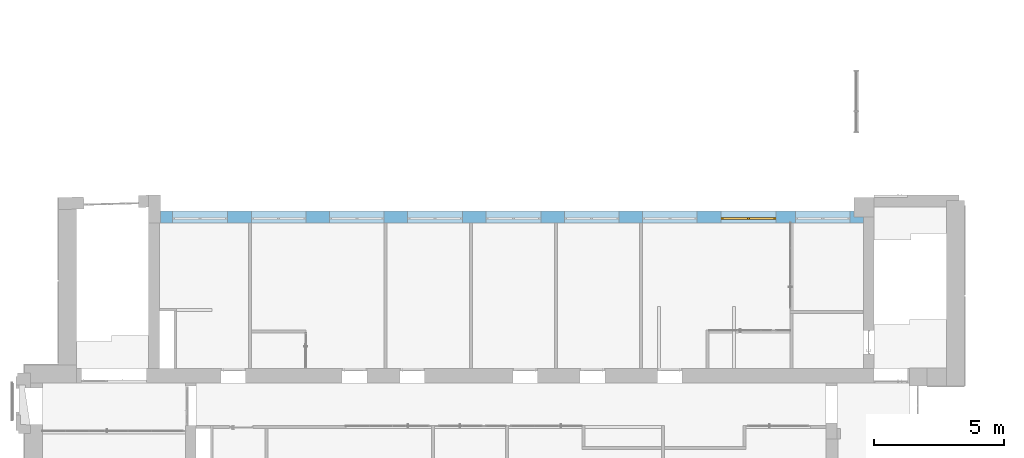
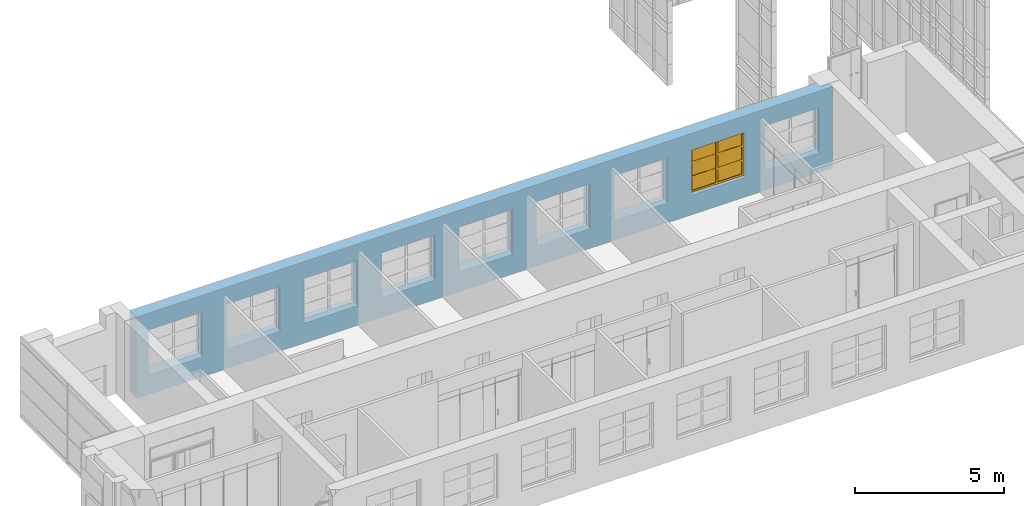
# One storey, part 66 of 73: 1 window, 9 openings, plus 1 element that does not belong to this part.
"""IFC2X3 building model written with IfcOpenShell, lengths in millimetres."""

import ifcopenshell
import ifcopenshell.guid

model = None  # the IFC model being written
_history = None  # IfcOwnerHistory: only IFC2X3 demands one
_inside = {}  # id of a spatial element -> (the spatial element, [elements in it])
_under = {}  # id of a project, library or spatial element -> (it, [spatial elements below it])
_declared = {}  # id of a project -> (the project, [libraries it declares])
_typed = {}  # id of a type object -> (the type object, [elements of that type])
_made_of = {}  # id of a material, layer set ... -> (it, [elements and type objects made of it])


def new_model(schema):
    """Start an empty IFC model of exactly this schema.

    Asked for "IFC4X3", IfcOpenShell would pick the latest addendum, in which some entities
    have other attributes; the version numbers below select the first issue.
    IFC2X3 requires an IfcOwnerHistory on every rooted entity: one is made here for all.
    """
    global model, _history
    if schema == "IFC4X3":
        model = ifcopenshell.file(schema_version=(4, 3, 0, 0))
    else:
        model = ifcopenshell.file(schema=schema)
    _inside.clear()
    _under.clear()
    _declared.clear()
    _typed.clear()
    _made_of.clear()
    _history = None
    if model.schema == "IFC2X3":
        org = make("IfcOrganization", Name="unknown")
        user = make(
            "IfcPersonAndOrganization",
            ThePerson=make("IfcPerson", FamilyName="unknown"),
            TheOrganization=org,
        )
        app = make(
            "IfcApplication",
            ApplicationDeveloper=org,
            Version="unknown",
            ApplicationFullName="unknown",
            ApplicationIdentifier="unknown",
        )
        _history = make(
            "IfcOwnerHistory",
            OwningUser=user,
            OwningApplication=app,
            ChangeAction="ADDED",
            CreationDate=0,
        )
    return model


def make(cls, **values):
    """One entity of the class cls with the attributes given. An attribute that is None is left unset."""
    return model.create_entity(
        cls, **{name: value for name, value in values.items() if value is not None}
    )


def entity(cls, *values):
    """Any entity or typed value of the class cls, its attributes in the order of the schema. None: left unset."""
    e = model.create_entity(cls)
    for i, value in enumerate(values):
        if value is not None:
            e[i] = value
    return e


def rooted(cls, **values):
    """An entity with a GlobalId (a new one), such as an element, a storey or a relation."""
    return make(cls, GlobalId=ifcopenshell.guid.new(), OwnerHistory=_history, **values)


def si_unit(unit_type, name, prefix=None):
    """IfcSIUnit, for example si_unit("LENGTHUNIT", "METRE", prefix="MILLI")."""
    return make("IfcSIUnit", UnitType=unit_type, Prefix=prefix, Name=name)


def converted_unit(unit_type, name, factor, base, dimensions=None, offset=None):
    """IfcConversionBasedUnit, such as the inch: factor (a typed value) times the base unit."""
    return make(
        "IfcConversionBasedUnit"
        if offset is None
        else "IfcConversionBasedUnitWithOffset",
        ConversionOffset=offset,
        Dimensions=None
        if dimensions is None
        else entity("IfcDimensionalExponents", *dimensions),
        UnitType=unit_type,
        Name=name,
        ConversionFactor=make(
            "IfcMeasureWithUnit", ValueComponent=factor, UnitComponent=base
        ),
    )


def derived_unit(unit_type, elements):
    """IfcDerivedUnit: a product of units, each with its exponent."""
    return make(
        "IfcDerivedUnit",
        Elements=[
            make("IfcDerivedUnitElement", Unit=unit, Exponent=power)
            for unit, power in elements
        ],
        UnitType=unit_type,
    )


def assignment(units):
    """IfcUnitAssignment: the units of a project."""
    return None if units is None else make("IfcUnitAssignment", Units=units)


def point(xyz):
    """IfcCartesianPoint."""
    return None if xyz is None else make("IfcCartesianPoint", Coordinates=xyz)


def direction(xyz):
    """IfcDirection."""
    return None if xyz is None else make("IfcDirection", DirectionRatios=xyz)


def frame(location, z_axis=None, x_axis=None):
    """IfcAxis2Placement3D, a coordinate frame: its origin and axes. An axis left out is left unset."""
    return make(
        "IfcAxis2Placement3D",
        Location=point(location),
        Axis=direction(z_axis),
        RefDirection=direction(x_axis),
    )


def frame_2d(location, x_axis=None):
    """IfcAxis2Placement2D, a coordinate frame in the plane: its origin and x axis."""
    return make(
        "IfcAxis2Placement2D", Location=point(location), RefDirection=direction(x_axis)
    )


def origin():
    """The frame at (0, 0, 0) with its axes left unset."""
    return frame((0.0, 0.0, 0.0))


def origin_2d_with_axis():
    """The frame at (0, 0) in the plane with the x axis (1, 0) written out."""
    return frame_2d((0.0, 0.0), x_axis=(1.0, 0.0))


def place(relative_to, where):
    """IfcLocalPlacement: puts the frame where relative to a parent placement (None: the world)."""
    return make(
        "IfcLocalPlacement", PlacementRelTo=relative_to, RelativePlacement=where
    )


def context(
    kind, dimensions, precision=None, world=None, true_north=None, identifier=None
):
    """IfcGeometricRepresentationContext, for example the 3D "Model" context."""
    return make(
        "IfcGeometricRepresentationContext",
        ContextIdentifier=identifier,
        ContextType=kind,
        CoordinateSpaceDimension=dimensions,
        Precision=precision,
        WorldCoordinateSystem=world,
        TrueNorth=true_north,
    )


def subcontext(parent, identifier, kind, view, scale=None):
    """IfcGeometricRepresentationSubContext, for example "Body" below "Model"."""
    return make(
        "IfcGeometricRepresentationSubContext",
        ContextIdentifier=identifier,
        ContextType=kind,
        ParentContext=parent,
        TargetScale=scale,
        TargetView=view,
    )


def project(units=None, contexts=None):
    """IfcProject with its units and contexts."""
    return rooted(
        "IfcProject",
        Name="project",
        RepresentationContexts=contexts,
        UnitsInContext=assignment(units),
    )


def spatial(cls, under=None, at=None, **own):
    """A site, building, storey or space (cls), placed at a placement, below another one or the project."""
    s = rooted(cls, ObjectPlacement=at, **own)
    if under is not None:
        _under.setdefault(under.id(), (under, []))[1].append(s)
    return s


def polyline(points):
    """IfcPolyline through the points."""
    return make("IfcPolyline", Points=[point(p) for p in points])


def profile(cls, at=None, kind="AREA", **sizes):
    """A parametric profile (cls). Its sizes go by their IFC names, for example OverallWidth=200.0."""
    return make(cls, ProfileType=kind, Position=at, **sizes)


def rectangle(**sizes):
    """IfcRectangleProfileDef."""
    return profile("IfcRectangleProfileDef", **sizes)


def outline(outer, holes=None, kind="AREA"):
    """IfcArbitraryClosedProfileDef: a profile drawn as a closed curve; with holes, ...WithVoids."""
    if holes is None:
        return make("IfcArbitraryClosedProfileDef", ProfileType=kind, OuterCurve=outer)
    return make(
        "IfcArbitraryProfileDefWithVoids",
        ProfileType=kind,
        OuterCurve=outer,
        InnerCurves=holes,
    )


def extrude(swept, where, along, depth):
    """IfcExtrudedAreaSolid: the profile swept, set in the frame where, extruded along a direction by depth."""
    return make(
        "IfcExtrudedAreaSolid",
        SweptArea=swept,
        Position=where,
        ExtrudedDirection=direction(along),
        Depth=depth,
    )


def faces_of(points, faces, orient=None, outer=None):
    """IfcFace entities. A face is a list of loops; a loop is a list of indices into points, from 0.

    orient and outer hold one flag for each loop. By default every Orientation is true, the
    first loop of a face is its IfcFaceOuterBound and the others are IfcFaceBound.
    """
    made = []
    for i, loops in enumerate(faces):
        bounds = []
        for j, loop in enumerate(loops):
            is_outer = j == 0 if outer is None else outer[i][j]
            bounds.append(
                make(
                    "IfcFaceOuterBound" if is_outer else "IfcFaceBound",
                    Bound=make("IfcPolyLoop", Polygon=[points[k] for k in loop]),
                    Orientation=True if orient is None else orient[i][j],
                )
            )
        made.append(make("IfcFace", Bounds=bounds))
    return made


def face_set(faces, orient=None, outer=None):
    """The faces of one IfcConnectedFaceSet. surface_model builds it on its shared points."""
    return ("IfcConnectedFaceSet", faces, orient, outer)


def surface_model(cls, points, shells):
    """IfcFaceBasedSurfaceModel or IfcShellBasedSurfaceModel (cls): surfaces that need not close."""
    shared = [point(p) for p in points]
    made = [make(c, CfsFaces=faces_of(shared, fs, o, b)) for c, fs, o, b in shells]
    if cls == "IfcFaceBasedSurfaceModel":
        return make(cls, FbsmFaces=made)
    return make(cls, SbsmBoundary=made)


def shape(context_of_items, identifier, shape_type, items):
    """IfcShapeRepresentation: the items that make up one representation, for example the "Body"."""
    return make(
        "IfcShapeRepresentation",
        ContextOfItems=context_of_items,
        RepresentationIdentifier=identifier,
        RepresentationType=shape_type,
        Items=items,
    )


def source(mapping_origin, context_of_items, identifier, shape_type, items):
    """IfcRepresentationMap: a shape defined once, which mapped items show again and again."""
    return make(
        "IfcRepresentationMap",
        MappingOrigin=mapping_origin,
        MappedRepresentation=shape(context_of_items, identifier, shape_type, items),
    )


def transform(
    local_origin,
    x_axis=None,
    y_axis=None,
    z_axis=None,
    scale=None,
    scale2=None,
    scale3=None,
    uniform=True,
):
    """IfcCartesianTransformationOperator3D, or its non-uniform kind. x_axis, y_axis, z_axis: its Axis1, 2, 3."""
    if uniform:
        return make(
            "IfcCartesianTransformationOperator3D",
            Axis1=direction(x_axis),
            Axis2=direction(y_axis),
            LocalOrigin=point(local_origin),
            Scale=scale,
            Axis3=direction(z_axis),
        )
    return make(
        "IfcCartesianTransformationOperator3DnonUniform",
        Axis1=direction(x_axis),
        Axis2=direction(y_axis),
        LocalOrigin=point(local_origin),
        Scale=scale,
        Axis3=direction(z_axis),
        Scale2=scale2,
        Scale3=scale3,
    )


def mapped(mapping_source, mapping_target):
    """IfcMappedItem: shows the shape of a source again, moved by a transform."""
    return make(
        "IfcMappedItem", MappingSource=mapping_source, MappingTarget=mapping_target
    )


def material(Name=None, Category=None):
    """IfcMaterial."""
    return make("IfcMaterial", Name=Name, Category=Category)


def material_list(materials):
    """IfcMaterialList."""
    return make("IfcMaterialList", Materials=materials)


def layer(
    of_material, thickness, ventilated=None, Name=None, Category=None, Priority=None
):
    """IfcMaterialLayer: one layer of a wall or slab, of a material (None: an air gap)."""
    return make(
        "IfcMaterialLayer",
        Material=of_material,
        LayerThickness=thickness,
        IsVentilated=ventilated,
        Name=Name,
        Category=Category,
        Priority=Priority,
    )


def layer_set(layers, Name=None):
    """IfcMaterialLayerSet."""
    return make("IfcMaterialLayerSet", MaterialLayers=layers, LayerSetName=Name)


def layer_usage(for_layer_set, set_direction, sense, offset, extent=None):
    """IfcMaterialLayerSetUsage: how a layer set lies in its element."""
    return make(
        "IfcMaterialLayerSetUsage",
        ForLayerSet=for_layer_set,
        LayerSetDirection=set_direction,
        DirectionSense=sense,
        OffsetFromReferenceLine=offset,
        ReferenceExtent=extent,
    )


def made_of(thing, what):
    """Note that an element or type object is made of a material, layer set ...; save() writes the relation."""
    if what is not None:
        _made_of.setdefault(what.id(), (what, []))[1].append(thing)
    return thing


def type_object(cls, material=None, **own):
    """A type object (cls), such as IfcWallType, which elements share."""
    return made_of(rooted(cls, **own), material)


def type_shapes(of_type, sources):
    """Give a type object the sources (RepresentationMaps) that its elements show as mapped items."""
    of_type.RepresentationMaps = sources


def element(
    cls,
    number,
    at=None,
    inside=None,
    cuts=None,
    type_object=None,
    material=None,
    context=None,
    identifier="Body",
    shape_type=None,
    held_by="IfcProductDefinitionShape",
    body=None,
    shapes=None,
    **own,
):
    """One element of the class cls, such as IfcWall. Its Tag is "e" and its number.

    at: its placement. inside: the storey or other place that contains it. cuts: it is an
    opening in that element (IfcRelVoidsElement). A single representation is given by context,
    identifier, shape_type and body (its items); several are given by shapes. held_by: the class
    of the entity that holds the representations. save() writes the other relations.
    """
    e = rooted(cls, Tag="e%d" % number, ObjectPlacement=at, **own)
    if body is not None:
        shapes = [shape(context, identifier, shape_type, body)]
    if shapes is not None:
        e.Representation = make(held_by, Representations=shapes)
    if inside is not None:
        _inside.setdefault(inside.id(), (inside, []))[1].append(e)
    if cuts is not None:
        rooted(
            "IfcRelVoidsElement", RelatingBuildingElement=cuts, RelatedOpeningElement=e
        )
    if type_object is not None:
        _typed.setdefault(type_object.id(), (type_object, []))[1].append(e)
    return made_of(e, material)


def fill(opening, filler):
    """IfcRelFillsElement: the door or window that sits in an opening."""
    return rooted(
        "IfcRelFillsElement",
        RelatingOpeningElement=opening,
        RelatedBuildingElement=filler,
    )


def aggregate(whole, parts):
    """IfcRelAggregates: a whole, such as a stair, and the parts it consists of."""
    return rooted("IfcRelAggregates", RelatingObject=whole, RelatedObjects=parts)


def save(model, path):
    """Write the relations noted so far, then the file.

    IfcRelAggregates (storeys below a building ...), IfcRelContainedInSpatialStructure (elements
    in a storey), IfcRelDefinesByType, IfcRelAssociatesMaterial and IfcRelDeclares: one each for
    every whole, place, type object, material and project.
    """
    for whole, parts in _under.values():
        aggregate(whole, parts)
    for where, things in _inside.values():
        rooted(
            "IfcRelContainedInSpatialStructure",
            RelatedElements=things,
            RelatingStructure=where,
        )
    for kind, things in _typed.values():
        rooted("IfcRelDefinesByType", RelatedObjects=things, RelatingType=kind)
    for what, things in _made_of.values():
        rooted("IfcRelAssociatesMaterial", RelatedObjects=things, RelatingMaterial=what)
    for by, libraries in _declared.values():
        rooted("IfcRelDeclares", RelatingContext=by, RelatedDefinitions=libraries)
    model.write(path)


model = new_model("IFC2X3")

# Units and contexts
model_context = context("Model", 3, precision=0.01, world=origin(), true_north=direction((6.12303176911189e-17, 1.0)))
body_context = subcontext(model_context, "Body", "Model", "MODEL_VIEW")
ifc_project = project(units=[si_unit("LENGTHUNIT", "METRE", prefix="MILLI"), si_unit("AREAUNIT", "SQUARE_METRE"), si_unit("VOLUMEUNIT", "CUBIC_METRE"), converted_unit("PLANEANGLEUNIT", "DEGREE", entity("IfcRatioMeasure", 0.0174532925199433), si_unit("PLANEANGLEUNIT", "RADIAN"), dimensions=[0, 0, 0, 0, 0, 0, 0]), si_unit("MASSUNIT", "GRAM", prefix="KILO"), derived_unit("MASSDENSITYUNIT", [(si_unit("MASSUNIT", "GRAM", prefix="KILO"), 1), (si_unit("LENGTHUNIT", "METRE"), -3)]), si_unit("TIMEUNIT", "SECOND"), si_unit("FREQUENCYUNIT", "HERTZ"), si_unit("THERMODYNAMICTEMPERATUREUNIT", "DEGREE_CELSIUS"), derived_unit("THERMALTRANSMITTANCEUNIT", [(si_unit("MASSUNIT", "GRAM", prefix="KILO"), 1), (si_unit("THERMODYNAMICTEMPERATUREUNIT", "KELVIN"), -1), (si_unit("TIMEUNIT", "SECOND"), -3)]), derived_unit("VOLUMETRICFLOWRATEUNIT", [(si_unit("LENGTHUNIT", "METRE"), 3), (si_unit("TIMEUNIT", "SECOND"), -1)]), si_unit("ELECTRICCURRENTUNIT", "AMPERE"), si_unit("ELECTRICVOLTAGEUNIT", "VOLT"), si_unit("POWERUNIT", "WATT"), si_unit("FORCEUNIT", "NEWTON", prefix="KILO"), si_unit("ILLUMINANCEUNIT", "LUX"), si_unit("LUMINOUSFLUXUNIT", "LUMEN"), si_unit("LUMINOUSINTENSITYUNIT", "CANDELA"), derived_unit("USERDEFINED", [(si_unit("MASSUNIT", "GRAM", prefix="KILO"), -1), (si_unit("LENGTHUNIT", "METRE"), -2), (si_unit("TIMEUNIT", "SECOND"), 3), (si_unit("LUMINOUSFLUXUNIT", "LUMEN"), 1)]), derived_unit("LINEARVELOCITYUNIT", [(si_unit("LENGTHUNIT", "METRE"), 1), (si_unit("TIMEUNIT", "SECOND"), -1)]), si_unit("PRESSUREUNIT", "PASCAL"), derived_unit("USERDEFINED", [(si_unit("LENGTHUNIT", "METRE"), -2), (si_unit("MASSUNIT", "GRAM", prefix="KILO"), 1), (si_unit("TIMEUNIT", "SECOND"), -2)])], contexts=[model_context])

# Site, building, storey
site_placement = place(None, frame((-151.875543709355, 2715.0, 0.0)))
site = spatial("IfcSite", under=ifc_project, at=site_placement, Name="Surface", CompositionType="ELEMENT")
building_placement = place(site_placement, origin())
building = spatial("IfcBuilding", under=site, at=building_placement, CompositionType="ELEMENT")
storey_placement = place(building_placement, frame((0.0, 0.0, 6730.43000000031)))
storey = spatial("IfcBuildingStorey", under=building, at=storey_placement, Name="3 korrus", CompositionType="ELEMENT", Elevation=6730.43000000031)

# Wall, openings, window
ifc_material_1 = material(Name="Brick, Common")
ifc_layer_1 = layer(ifc_material_1, 440.0)
ifc_material_2 = material(Name="__Kips GN13_tava")
ifc_layer_2 = layer(ifc_material_2, 20.0)
ifc_layer_set = layer_set([ifc_layer_1, ifc_layer_2], Name="Basic Wall:VS-1")
ifc_layer_usage = layer_usage(ifc_layer_set, "AXIS2", "POSITIVE", -230.0)
wall_type = type_object("IfcWallType", Name="Basic Wall:VS-1", PredefinedType="STANDARD", material=ifc_layer_set)
wall_placement = place(storey_placement, frame((31972.6162682, 12380.0, 0.00203353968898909), z_axis=(0.0, 0.0, 1.0), x_axis=(-1.0, 0.0, 0.0)))
wall = element("IfcWallStandardCase", 1, at=wall_placement, inside=storey, type_object=wall_type, material=ifc_layer_usage, Name="SEIN - 005", ObjectType="Basic Wall:VS-1", context=body_context, shape_type="SweptSolid", body=[
    extrude(outline(polyline([(26972.5418693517, -230.0), (26972.5418693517, 230.0), (0.0, 230.0), (0.0, 0.0), (370.0, 0.0), (370.0, -230.0), (26972.5418693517, -230.0)])), origin(), (0.0, 0.0, 1.0), 3329.56796646),
])
opening_1_placement = place(wall_placement, frame((31972.6162682, 12380.0, -0.00203353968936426), z_axis=(0.0, 0.0, 1.0), x_axis=(-1.0, 0.0, 0.0)))
element("IfcOpeningElement", 2, at=opening_1_placement, cuts=wall, Name="SEIN - 005", ObjectType="Opening", context=body_context, shape_type="SweptSolid", body=[
    extrude(rectangle(XDim=1850.0, YDim=2100.0, at=frame_2d((0.0, -5.6843418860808e-13), x_axis=(1.0, 0.0))), frame((6512.84934801, 13077.9, 1725.00203353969), z_axis=(0.0, -1.0, 0.0), x_axis=(0.0, 0.0, 1.0)), (0.0, 0.0, 1.0), 1393.8),
])
opening_2_placement = place(wall_placement, frame((31972.6162682, 12380.0, -0.00203353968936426), z_axis=(0.0, 0.0, 1.0), x_axis=(-1.0, 0.0, 0.0)))
element("IfcOpeningElement", 3, at=opening_2_placement, cuts=wall, Name="SEIN - 005", ObjectType="Opening", context=body_context, shape_type="SweptSolid", body=[
    extrude(rectangle(XDim=1850.0, YDim=2100.0, at=origin_2d_with_axis()), frame((9532.84934801, 13077.9, 1725.00203353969), z_axis=(0.0, -1.0, 0.0), x_axis=(0.0, 0.0, 1.0)), (0.0, 0.0, 1.0), 1393.8),
])
opening_3_placement = place(wall_placement, frame((31972.6162682, 12380.0, -0.00203353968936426), z_axis=(0.0, 0.0, 1.0), x_axis=(-1.0, 0.0, 0.0)))
element("IfcOpeningElement", 4, at=opening_3_placement, cuts=wall, Name="SEIN - 005", ObjectType="Opening", context=body_context, shape_type="SweptSolid", body=[
    extrude(rectangle(XDim=1850.0, YDim=2100.0, at=frame_2d((0.0, -1.02318153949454e-12), x_axis=(1.0, 0.0))), frame((12532.84934801, 13077.9, 1725.00203353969), z_axis=(0.0, -1.0, 0.0), x_axis=(0.0, 0.0, 1.0)), (0.0, 0.0, 1.0), 1393.8),
])
opening_4_placement = place(wall_placement, frame((31972.6162682, 12380.0, -0.00203353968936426), z_axis=(0.0, 0.0, 1.0), x_axis=(-1.0, 0.0, 0.0)))
element("IfcOpeningElement", 5, at=opening_4_placement, cuts=wall, Name="SEIN - 005", ObjectType="Opening", context=body_context, shape_type="SweptSolid", body=[
    extrude(rectangle(XDim=1850.0, YDim=2100.0, at=origin_2d_with_axis()), frame((15532.849348, 13077.9, 1725.00203353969), z_axis=(0.0, -1.0, 0.0), x_axis=(0.0, 0.0, 1.0)), (0.0, 0.0, 1.0), 1393.8),
])
opening_5_placement = place(wall_placement, frame((31972.6162682, 12380.0, -0.00203353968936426), z_axis=(0.0, 0.0, 1.0), x_axis=(-1.0, 0.0, 0.0)))
element("IfcOpeningElement", 6, at=opening_5_placement, cuts=wall, Name="SEIN - 005", ObjectType="Opening", context=body_context, shape_type="SweptSolid", body=[
    extrude(rectangle(XDim=1850.0, YDim=2100.0, at=origin_2d_with_axis()), frame((18542.849348, 13077.9, 1725.00203353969), z_axis=(0.0, -1.0, 0.0), x_axis=(0.0, 0.0, 1.0)), (0.0, 0.0, 1.0), 1393.8),
])
opening_6_placement = place(wall_placement, frame((31972.6162682, 12380.0, -0.00203353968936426), z_axis=(0.0, 0.0, 1.0), x_axis=(-1.0, 0.0, 0.0)))
element("IfcOpeningElement", 7, at=opening_6_placement, cuts=wall, Name="SEIN - 005", ObjectType="Opening", context=body_context, shape_type="SweptSolid", body=[
    extrude(rectangle(XDim=1850.0, YDim=2100.0, at=origin_2d_with_axis()), frame((21543.0530903, 13077.9, 1725.00203353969), z_axis=(0.0, -1.0, 0.0), x_axis=(0.0, 0.0, 1.0)), (0.0, 0.0, 1.0), 1393.8),
])
opening_7_placement = place(wall_placement, frame((31972.6162682, 12380.0, -0.00203353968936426), z_axis=(0.0, 0.0, 1.0), x_axis=(-1.0, 0.0, 0.0)))
element("IfcOpeningElement", 8, at=opening_7_placement, cuts=wall, Name="SEIN - 005", ObjectType="Opening", context=body_context, shape_type="SweptSolid", body=[
    extrude(rectangle(XDim=1850.0, YDim=2100.0, at=origin_2d_with_axis()), frame((24543.0530903, 13077.9, 1725.00203353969), z_axis=(0.0, -1.0, 0.0), x_axis=(0.0, 0.0, 1.0)), (0.0, 0.0, 1.0), 1393.8),
])
opening_8_placement = place(wall_placement, frame((31972.6162682, 12380.0, -0.00203353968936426), z_axis=(0.0, 0.0, 1.0), x_axis=(-1.0, 0.0, 0.0)))
opening_8 = element("IfcOpeningElement", 9, at=opening_8_placement, cuts=wall, Name="SEIN - 005", ObjectType="Opening", context=body_context, shape_type="SweptSolid", body=[
    extrude(rectangle(XDim=1850.0, YDim=2100.0, at=origin_2d_with_axis()), frame((27563.0530903, 13077.9, 1725.00203353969), z_axis=(0.0, -1.0, 0.0), x_axis=(0.0, 0.0, 1.0)), (0.0, 0.0, 1.0), 1393.8),
])
opening_9_placement = place(wall_placement, frame((31972.6162682, 12380.0, -0.00203353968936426), z_axis=(0.0, 0.0, 1.0), x_axis=(-1.0, 0.0, 0.0)))
element("IfcOpeningElement", 10, at=opening_9_placement, cuts=wall, Name="SEIN - 005", ObjectType="Opening", context=body_context, shape_type="SweptSolid", body=[
    extrude(rectangle(XDim=1850.0, YDim=2100.0, at=origin_2d_with_axis()), frame((30412.5729235, 13077.9, 1725.00203353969), z_axis=(0.0, -1.0, 0.0), x_axis=(0.0, 0.0, 1.0)), (0.0, 0.0, 1.0), 1393.8),
])
ifc_material_3 = material(Name="Paint - Titanium White")
ifc_material_4 = material(Name="Paint - Dark Gray")
ifc_material_5 = material(Name="Glass - Clear Fast")
ifc_material_list_1 = material_list([ifc_material_3, ifc_material_4, ifc_material_5])
ifc_material_list_2 = material_list([ifc_material_3, ifc_material_4, ifc_material_5])
window_style = type_object("IfcWindowStyle", Name="Aken_1850x2100", ConstructionType="NOTDEFINED", OperationType="DOUBLE_PANEL_VERTICAL", ParameterTakesPrecedence=False, Sizeable=False, material=ifc_material_list_2)
shared_shape = source(origin(), body_context, "Body", "SurfaceModel", [
    surface_model("IfcFaceBasedSurfaceModel", [(80.0, -665.9, 1770.0), (80.0, -620.9, 1770.0), (0.0, -620.9, 1770.0), (0.0, -665.9, 1770.0), (80.0, -665.9, 80.0), (80.0, -620.9, 80.0), (80.0, -620.9, 1770.0), (80.0, -665.9, 1770.0), (80.0, -620.9, 1770.0), (80.0, -620.9, 80.0), (0.0, -620.9, 80.0), (0.0, -620.9, 1770.0), (0.0, -665.9, 1770.0), (0.0, -620.9, 1770.0), (0.0, -620.9, 80.0), (0.0, -665.9, 80.0), (80.0, -665.9, 1770.0), (0.0, -665.9, 1770.0), (0.0, -665.9, 80.0), (80.0, -665.9, 80.0), (0.0, -665.9, 80.0), (0.0, -620.9, 80.0), (80.0, -620.9, 80.0), (80.0, -665.9, 80.0), (2020.0, -665.9, 80.0), (2020.0, -620.9, 80.0), (2100.0, -620.9, 80.0), (2100.0, -665.9, 80.0), (2020.0, -665.9, 1770.0), (2020.0, -620.9, 1770.0), (2020.0, -620.9, 80.0), (2020.0, -665.9, 80.0), (2020.0, -620.9, 80.0), (2020.0, -620.9, 1770.0), (2100.0, -620.9, 1770.0), (2100.0, -620.9, 80.0), (2100.0, -665.9, 80.0), (2100.0, -620.9, 80.0), (2100.0, -620.9, 1770.0), (2100.0, -665.9, 1770.0), (2020.0, -665.9, 80.0), (2100.0, -665.9, 80.0), (2100.0, -665.9, 1770.0), (2020.0, -665.9, 1770.0), (2100.0, -665.9, 1770.0), (2100.0, -620.9, 1770.0), (2020.0, -620.9, 1770.0), (2020.0, -665.9, 1770.0), (1010.0, -665.9, 80.0), (1010.0, -620.9, 80.0), (1090.0, -620.9, 80.0), (1090.0, -665.9, 80.0), (1010.0, -665.9, 1770.0), (1010.0, -620.9, 1770.0), (1010.0, -620.9, 80.0), (1010.0, -665.9, 80.0), (1010.0, -620.9, 80.0), (1010.0, -620.9, 1770.0), (1090.0, -620.9, 1770.0), (1090.0, -620.9, 80.0), (1090.0, -665.9, 80.0), (1090.0, -620.9, 80.0), (1090.0, -620.9, 1770.0), (1090.0, -665.9, 1770.0), (1010.0, -665.9, 80.0), (1090.0, -665.9, 80.0), (1090.0, -665.9, 1770.0), (1010.0, -665.9, 1770.0), (1090.0, -665.9, 1770.0), (1090.0, -620.9, 1770.0), (1010.0, -620.9, 1770.0), (1010.0, -665.9, 1770.0), (80.0, -665.9, 80.0), (80.0, -620.9, 80.0), (0.0, -620.9, 80.0), (0.0, -665.9, 80.0), (1010.0, -665.9, 80.0), (1010.0, -620.9, 80.0), (80.0, -620.9, 80.0), (80.0, -665.9, 80.0), (80.0, -620.9, 80.0), (1010.0, -620.9, 80.0), (1090.0, -620.9, 80.0), (2020.0, -620.9, 80.0), (2100.0, -620.9, 80.0), (2100.0, -620.9, 0.0), (0.0, -620.9, 0.0), (0.0, -620.9, 80.0), (0.0, -665.9, 80.0), (0.0, -620.9, 80.0), (0.0, -620.9, 0.0), (0.0, -665.9, 0.0), (80.0, -665.9, 80.0), (0.0, -665.9, 80.0), (0.0, -665.9, 0.0), (2100.0, -665.9, 0.0), (2100.0, -665.9, 80.0), (2020.0, -665.9, 80.0), (1090.0, -665.9, 80.0), (1010.0, -665.9, 80.0), (1090.0, -665.9, 80.0), (1090.0, -620.9, 80.0), (1010.0, -620.9, 80.0), (1010.0, -665.9, 80.0), (2020.0, -665.9, 80.0), (2020.0, -620.9, 80.0), (1090.0, -620.9, 80.0), (1090.0, -665.9, 80.0), (2100.0, -665.9, 80.0), (2100.0, -620.9, 80.0), (2020.0, -620.9, 80.0), (2020.0, -665.9, 80.0), (2100.0, -665.9, 0.0), (2100.0, -620.9, 0.0), (2100.0, -620.9, 80.0), (2100.0, -665.9, 80.0), (0.0, -665.9, 0.0), (0.0, -620.9, 0.0), (2100.0, -620.9, 0.0), (2100.0, -665.9, 0.0), (1010.0, -665.9, 1770.0), (1010.0, -620.9, 1770.0), (1090.0, -620.9, 1770.0), (1090.0, -665.9, 1770.0), (80.0, -665.9, 1770.0), (80.0, -620.9, 1770.0), (1010.0, -620.9, 1770.0), (1010.0, -665.9, 1770.0), (1010.0, -620.9, 1770.0), (80.0, -620.9, 1770.0), (0.0, -620.9, 1770.0), (0.0, -620.9, 1850.0), (2100.0, -620.9, 1850.0), (2100.0, -620.9, 1770.0), (2020.0, -620.9, 1770.0), (1090.0, -620.9, 1770.0), (1090.0, -665.9, 1770.0), (1090.0, -620.9, 1770.0), (2020.0, -620.9, 1770.0), (2020.0, -665.9, 1770.0), (1010.0, -665.9, 1770.0), (1090.0, -665.9, 1770.0), (2020.0, -665.9, 1770.0), (2100.0, -665.9, 1770.0), (2100.0, -665.9, 1850.0), (0.0, -665.9, 1850.0), (0.0, -665.9, 1770.0), (80.0, -665.9, 1770.0), (0.0, -665.9, 1770.0), (0.0, -620.9, 1770.0), (80.0, -620.9, 1770.0), (80.0, -665.9, 1770.0), (0.0, -665.9, 1850.0), (0.0, -620.9, 1850.0), (0.0, -620.9, 1770.0), (0.0, -665.9, 1770.0), (2100.0, -665.9, 1850.0), (2100.0, -620.9, 1850.0), (0.0, -620.9, 1850.0), (0.0, -665.9, 1850.0), (2100.0, -665.9, 1770.0), (2100.0, -620.9, 1770.0), (2100.0, -620.9, 1850.0), (2100.0, -665.9, 1850.0), (2020.0, -665.9, 1770.0), (2020.0, -620.9, 1770.0), (2100.0, -620.9, 1770.0), (2100.0, -665.9, 1770.0), (80.0, -640.9, 590.0), (80.0, -630.9, 590.0), (1010.0, -630.9, 590.0), (1010.0, -640.9, 590.0), (80.0, -640.9, 670.0), (80.0, -630.9, 670.0), (80.0, -630.9, 590.0), (80.0, -640.9, 590.0), (80.0, -630.9, 590.0), (80.0, -630.9, 670.0), (1010.0, -630.9, 670.0), (1010.0, -630.9, 590.0), (1010.0, -640.9, 590.0), (1010.0, -630.9, 590.0), (1010.0, -630.9, 670.0), (1010.0, -640.9, 670.0), (80.0, -640.9, 590.0), (1010.0, -640.9, 590.0), (1010.0, -640.9, 670.0), (80.0, -640.9, 670.0), (1010.0, -640.9, 670.0), (1010.0, -630.9, 670.0), (80.0, -630.9, 670.0), (80.0, -640.9, 670.0), (80.0, -640.9, 1180.0), (80.0, -630.9, 1180.0), (1010.0, -630.9, 1180.0), (1010.0, -640.9, 1180.0), (80.0, -640.9, 1260.0), (80.0, -630.9, 1260.0), (80.0, -630.9, 1180.0), (80.0, -640.9, 1180.0), (80.0, -630.9, 1180.0), (80.0, -630.9, 1260.0), (1010.0, -630.9, 1260.0), (1010.0, -630.9, 1180.0), (1010.0, -640.9, 1180.0), (1010.0, -630.9, 1180.0), (1010.0, -630.9, 1260.0), (1010.0, -640.9, 1260.0), (80.0, -640.9, 1180.0), (1010.0, -640.9, 1180.0), (1010.0, -640.9, 1260.0), (80.0, -640.9, 1260.0), (1010.0, -640.9, 1260.0), (1010.0, -630.9, 1260.0), (80.0, -630.9, 1260.0), (80.0, -640.9, 1260.0), (1090.0, -640.9, 590.0), (1090.0, -630.9, 590.0), (2020.0, -630.9, 590.0), (2020.0, -640.9, 590.0), (1090.0, -640.9, 670.0), (1090.0, -630.9, 670.0), (1090.0, -630.9, 590.0), (1090.0, -640.9, 590.0), (1090.0, -630.9, 590.0), (1090.0, -630.9, 670.0), (2020.0, -630.9, 670.0), (2020.0, -630.9, 590.0), (2020.0, -640.9, 590.0), (2020.0, -630.9, 590.0), (2020.0, -630.9, 670.0), (2020.0, -640.9, 670.0), (1090.0, -640.9, 590.0), (2020.0, -640.9, 590.0), (2020.0, -640.9, 670.0), (1090.0, -640.9, 670.0), (2020.0, -640.9, 670.0), (2020.0, -630.9, 670.0), (1090.0, -630.9, 670.0), (1090.0, -640.9, 670.0), (1090.0, -640.9, 1180.0), (1090.0, -630.9, 1180.0), (2020.0, -630.9, 1180.0), (2020.0, -640.9, 1180.0), (1090.0, -640.9, 1260.0), (1090.0, -630.9, 1260.0), (1090.0, -630.9, 1180.0), (1090.0, -640.9, 1180.0), (1090.0, -630.9, 1180.0), (1090.0, -630.9, 1260.0), (2020.0, -630.9, 1260.0), (2020.0, -630.9, 1180.0), (2020.0, -640.9, 1180.0), (2020.0, -630.9, 1180.0), (2020.0, -630.9, 1260.0), (2020.0, -640.9, 1260.0), (1090.0, -640.9, 1180.0), (2020.0, -640.9, 1180.0), (2020.0, -640.9, 1260.0), (1090.0, -640.9, 1260.0), (2020.0, -640.9, 1260.0), (2020.0, -630.9, 1260.0), (1090.0, -630.9, 1260.0), (1090.0, -640.9, 1260.0)], [face_set([[[0, 1, 2, 3]]]), face_set([[[4, 5, 6, 7]]]), face_set([[[8, 9, 10, 11]]]), face_set([[[12, 13, 14, 15]]]), face_set([[[16, 17, 18, 19]]]), face_set([[[20, 21, 22, 23]]]), face_set([[[24, 25, 26, 27]]]), face_set([[[28, 29, 30, 31]]]), face_set([[[32, 33, 34, 35]]]), face_set([[[36, 37, 38, 39]]]), face_set([[[40, 41, 42, 43]]]), face_set([[[44, 45, 46, 47]]]), face_set([[[48, 49, 50, 51]]]), face_set([[[52, 53, 54, 55]]]), face_set([[[56, 57, 58, 59]]]), face_set([[[60, 61, 62, 63]]]), face_set([[[64, 65, 66, 67]]]), face_set([[[68, 69, 70, 71]]]), face_set([[[72, 73, 74, 75]]]), face_set([[[76, 77, 78, 79]]]), face_set([[[80, 81, 82, 83, 84, 85, 86, 87]]]), face_set([[[88, 89, 90, 91]]]), face_set([[[92, 93, 94, 95, 96, 97, 98, 99]]]), face_set([[[100, 101, 102, 103]]]), face_set([[[104, 105, 106, 107]]]), face_set([[[108, 109, 110, 111]]]), face_set([[[112, 113, 114, 115]]]), face_set([[[116, 117, 118, 119]]]), face_set([[[120, 121, 122, 123]]]), face_set([[[124, 125, 126, 127]]]), face_set([[[128, 129, 130, 131, 132, 133, 134, 135]]]), face_set([[[136, 137, 138, 139]]]), face_set([[[140, 141, 142, 143, 144, 145, 146, 147]]]), face_set([[[148, 149, 150, 151]]]), face_set([[[152, 153, 154, 155]]]), face_set([[[156, 157, 158, 159]]]), face_set([[[160, 161, 162, 163]]]), face_set([[[164, 165, 166, 167]]]), face_set([[[168, 169, 170, 171]]]), face_set([[[172, 173, 174, 175]]]), face_set([[[176, 177, 178, 179]]]), face_set([[[180, 181, 182, 183]]]), face_set([[[184, 185, 186, 187]]]), face_set([[[188, 189, 190, 191]]]), face_set([[[192, 193, 194, 195]]]), face_set([[[196, 197, 198, 199]]]), face_set([[[200, 201, 202, 203]]]), face_set([[[204, 205, 206, 207]]]), face_set([[[208, 209, 210, 211]]]), face_set([[[212, 213, 214, 215]]]), face_set([[[216, 217, 218, 219]]]), face_set([[[220, 221, 222, 223]]]), face_set([[[224, 225, 226, 227]]]), face_set([[[228, 229, 230, 231]]]), face_set([[[232, 233, 234, 235]]]), face_set([[[236, 237, 238, 239]]]), face_set([[[240, 241, 242, 243]]]), face_set([[[244, 245, 246, 247]]]), face_set([[[248, 249, 250, 251]]]), face_set([[[252, 253, 254, 255]]]), face_set([[[256, 257, 258, 259]]]), face_set([[[260, 261, 262, 263]]])]),
    surface_model("IfcFaceBasedSurfaceModel", [(80.0, -620.9, 1770.0), (80.0, -595.9, 1770.0), (0.0, -595.9, 1770.0), (0.0, -620.9, 1770.0), (80.0, -620.9, 80.0), (80.0, -595.9, 80.0), (80.0, -595.9, 1770.0), (80.0, -620.9, 1770.0), (80.0, -595.9, 1770.0), (80.0, -595.9, 80.0), (0.0, -595.9, 80.0), (0.0, -595.9, 1770.0), (0.0, -620.9, 1770.0), (0.0, -595.9, 1770.0), (0.0, -595.9, 80.0), (0.0, -620.9, 80.0), (80.0, -620.9, 1770.0), (0.0, -620.9, 1770.0), (0.0, -620.9, 80.0), (80.0, -620.9, 80.0), (0.0, -620.9, 80.0), (0.0, -595.9, 80.0), (80.0, -595.9, 80.0), (80.0, -620.9, 80.0), (2020.0, -620.9, 80.0), (2020.0, -595.9, 80.0), (2100.0, -595.9, 80.0), (2100.0, -620.9, 80.0), (2020.0, -620.9, 1770.0), (2020.0, -595.9, 1770.0), (2020.0, -595.9, 80.0), (2020.0, -620.9, 80.0), (2020.0, -595.9, 80.0), (2020.0, -595.9, 1770.0), (2100.0, -595.9, 1770.0), (2100.0, -595.9, 80.0), (2100.0, -620.9, 80.0), (2100.0, -595.9, 80.0), (2100.0, -595.9, 1770.0), (2100.0, -620.9, 1770.0), (2020.0, -620.9, 80.0), (2100.0, -620.9, 80.0), (2100.0, -620.9, 1770.0), (2020.0, -620.9, 1770.0), (2100.0, -620.9, 1770.0), (2100.0, -595.9, 1770.0), (2020.0, -595.9, 1770.0), (2020.0, -620.9, 1770.0), (1010.0, -620.9, 80.0), (1010.0, -595.9, 80.0), (1090.0, -595.9, 80.0), (1090.0, -620.9, 80.0), (1010.0, -620.9, 1770.0), (1010.0, -595.9, 1770.0), (1010.0, -595.9, 80.0), (1010.0, -620.9, 80.0), (1010.0, -595.9, 80.0), (1010.0, -595.9, 1770.0), (1090.0, -595.9, 1770.0), (1090.0, -595.9, 80.0), (1090.0, -620.9, 80.0), (1090.0, -595.9, 80.0), (1090.0, -595.9, 1770.0), (1090.0, -620.9, 1770.0), (1010.0, -620.9, 80.0), (1090.0, -620.9, 80.0), (1090.0, -620.9, 1770.0), (1010.0, -620.9, 1770.0), (1090.0, -620.9, 1770.0), (1090.0, -595.9, 1770.0), (1010.0, -595.9, 1770.0), (1010.0, -620.9, 1770.0), (80.0, -620.9, 80.0), (80.0, -595.9, 80.0), (0.0, -595.9, 80.0), (0.0, -620.9, 80.0), (1010.0, -620.9, 80.0), (1010.0, -595.9, 80.0), (80.0, -595.9, 80.0), (80.0, -620.9, 80.0), (80.0, -595.9, 80.0), (1010.0, -595.9, 80.0), (1090.0, -595.9, 80.0), (2020.0, -595.9, 80.0), (2100.0, -595.9, 80.0), (2100.0, -595.9, 0.0), (0.0, -595.9, 0.0), (0.0, -595.9, 80.0), (0.0, -620.9, 80.0), (0.0, -595.9, 80.0), (0.0, -595.9, 0.0), (0.0, -620.9, 0.0), (80.0, -620.9, 80.0), (0.0, -620.9, 80.0), (0.0, -620.9, 0.0), (2100.0, -620.9, 0.0), (2100.0, -620.9, 80.0), (2020.0, -620.9, 80.0), (1090.0, -620.9, 80.0), (1010.0, -620.9, 80.0), (1090.0, -620.9, 80.0), (1090.0, -595.9, 80.0), (1010.0, -595.9, 80.0), (1010.0, -620.9, 80.0), (2020.0, -620.9, 80.0), (2020.0, -595.9, 80.0), (1090.0, -595.9, 80.0), (1090.0, -620.9, 80.0), (2100.0, -620.9, 80.0), (2100.0, -595.9, 80.0), (2020.0, -595.9, 80.0), (2020.0, -620.9, 80.0), (2100.0, -620.9, 0.0), (2100.0, -595.9, 0.0), (2100.0, -595.9, 80.0), (2100.0, -620.9, 80.0), (0.0, -620.9, 0.0), (0.0, -595.9, 0.0), (2100.0, -595.9, 0.0), (2100.0, -620.9, 0.0), (1010.0, -620.9, 1770.0), (1010.0, -595.9, 1770.0), (1090.0, -595.9, 1770.0), (1090.0, -620.9, 1770.0), (80.0, -620.9, 1770.0), (80.0, -595.9, 1770.0), (1010.0, -595.9, 1770.0), (1010.0, -620.9, 1770.0), (1010.0, -595.9, 1770.0), (80.0, -595.9, 1770.0), (0.0, -595.9, 1770.0), (0.0, -595.9, 1850.0), (2100.0, -595.9, 1850.0), (2100.0, -595.9, 1770.0), (2020.0, -595.9, 1770.0), (1090.0, -595.9, 1770.0), (1090.0, -620.9, 1770.0), (1090.0, -595.9, 1770.0), (2020.0, -595.9, 1770.0), (2020.0, -620.9, 1770.0), (1010.0, -620.9, 1770.0), (1090.0, -620.9, 1770.0), (2020.0, -620.9, 1770.0), (2100.0, -620.9, 1770.0), (2100.0, -620.9, 1850.0), (0.0, -620.9, 1850.0), (0.0, -620.9, 1770.0), (80.0, -620.9, 1770.0), (0.0, -620.9, 1770.0), (0.0, -595.9, 1770.0), (80.0, -595.9, 1770.0), (80.0, -620.9, 1770.0), (0.0, -620.9, 1850.0), (0.0, -595.9, 1850.0), (0.0, -595.9, 1770.0), (0.0, -620.9, 1770.0), (2100.0, -620.9, 1850.0), (2100.0, -595.9, 1850.0), (0.0, -595.9, 1850.0), (0.0, -620.9, 1850.0), (2100.0, -620.9, 1770.0), (2100.0, -595.9, 1770.0), (2100.0, -595.9, 1850.0), (2100.0, -620.9, 1850.0), (2020.0, -620.9, 1770.0), (2020.0, -595.9, 1770.0), (2100.0, -595.9, 1770.0), (2100.0, -620.9, 1770.0), (80.0, -630.9, 590.0), (80.0, -600.9, 590.0), (1010.0, -600.9, 590.0), (1010.0, -630.9, 590.0), (80.0, -630.9, 670.0), (80.0, -600.9, 670.0), (80.0, -600.9, 590.0), (80.0, -630.9, 590.0), (80.0, -600.9, 590.0), (80.0, -600.9, 670.0), (1010.0, -600.9, 670.0), (1010.0, -600.9, 590.0), (1010.0, -630.9, 590.0), (1010.0, -600.9, 590.0), (1010.0, -600.9, 670.0), (1010.0, -630.9, 670.0), (80.0, -630.9, 590.0), (1010.0, -630.9, 590.0), (1010.0, -630.9, 670.0), (80.0, -630.9, 670.0), (1010.0, -630.9, 670.0), (1010.0, -600.9, 670.0), (80.0, -600.9, 670.0), (80.0, -630.9, 670.0), (80.0, -630.9, 1180.0), (80.0, -600.9, 1180.0), (1010.0, -600.9, 1180.0), (1010.0, -630.9, 1180.0), (80.0, -630.9, 1260.0), (80.0, -600.9, 1260.0), (80.0, -600.9, 1180.0), (80.0, -630.9, 1180.0), (80.0, -600.9, 1180.0), (80.0, -600.9, 1260.0), (1010.0, -600.9, 1260.0), (1010.0, -600.9, 1180.0), (1010.0, -630.9, 1180.0), (1010.0, -600.9, 1180.0), (1010.0, -600.9, 1260.0), (1010.0, -630.9, 1260.0), (80.0, -630.9, 1180.0), (1010.0, -630.9, 1180.0), (1010.0, -630.9, 1260.0), (80.0, -630.9, 1260.0), (1010.0, -630.9, 1260.0), (1010.0, -600.9, 1260.0), (80.0, -600.9, 1260.0), (80.0, -630.9, 1260.0), (1090.0, -630.9, 590.0), (1090.0, -600.9, 590.0), (2020.0, -600.9, 590.0), (2020.0, -630.9, 590.0), (1090.0, -630.9, 670.0), (1090.0, -600.9, 670.0), (1090.0, -600.9, 590.0), (1090.0, -630.9, 590.0), (1090.0, -600.9, 590.0), (1090.0, -600.9, 670.0), (2020.0, -600.9, 670.0), (2020.0, -600.9, 590.0), (2020.0, -630.9, 590.0), (2020.0, -600.9, 590.0), (2020.0, -600.9, 670.0), (2020.0, -630.9, 670.0), (1090.0, -630.9, 590.0), (2020.0, -630.9, 590.0), (2020.0, -630.9, 670.0), (1090.0, -630.9, 670.0), (2020.0, -630.9, 670.0), (2020.0, -600.9, 670.0), (1090.0, -600.9, 670.0), (1090.0, -630.9, 670.0), (1090.0, -630.9, 1180.0), (1090.0, -600.9, 1180.0), (2020.0, -600.9, 1180.0), (2020.0, -630.9, 1180.0), (1090.0, -630.9, 1260.0), (1090.0, -600.9, 1260.0), (1090.0, -600.9, 1180.0), (1090.0, -630.9, 1180.0), (1090.0, -600.9, 1180.0), (1090.0, -600.9, 1260.0), (2020.0, -600.9, 1260.0), (2020.0, -600.9, 1180.0), (2020.0, -630.9, 1180.0), (2020.0, -600.9, 1180.0), (2020.0, -600.9, 1260.0), (2020.0, -630.9, 1260.0), (1090.0, -630.9, 1180.0), (2020.0, -630.9, 1180.0), (2020.0, -630.9, 1260.0), (1090.0, -630.9, 1260.0), (2020.0, -630.9, 1260.0), (2020.0, -600.9, 1260.0), (1090.0, -600.9, 1260.0), (1090.0, -630.9, 1260.0)], [face_set([[[0, 1, 2, 3]]]), face_set([[[4, 5, 6, 7]]]), face_set([[[8, 9, 10, 11]]]), face_set([[[12, 13, 14, 15]]]), face_set([[[16, 17, 18, 19]]]), face_set([[[20, 21, 22, 23]]]), face_set([[[24, 25, 26, 27]]]), face_set([[[28, 29, 30, 31]]]), face_set([[[32, 33, 34, 35]]]), face_set([[[36, 37, 38, 39]]]), face_set([[[40, 41, 42, 43]]]), face_set([[[44, 45, 46, 47]]]), face_set([[[48, 49, 50, 51]]]), face_set([[[52, 53, 54, 55]]]), face_set([[[56, 57, 58, 59]]]), face_set([[[60, 61, 62, 63]]]), face_set([[[64, 65, 66, 67]]]), face_set([[[68, 69, 70, 71]]]), face_set([[[72, 73, 74, 75]]]), face_set([[[76, 77, 78, 79]]]), face_set([[[80, 81, 82, 83, 84, 85, 86, 87]]]), face_set([[[88, 89, 90, 91]]]), face_set([[[92, 93, 94, 95, 96, 97, 98, 99]]]), face_set([[[100, 101, 102, 103]]]), face_set([[[104, 105, 106, 107]]]), face_set([[[108, 109, 110, 111]]]), face_set([[[112, 113, 114, 115]]]), face_set([[[116, 117, 118, 119]]]), face_set([[[120, 121, 122, 123]]]), face_set([[[124, 125, 126, 127]]]), face_set([[[128, 129, 130, 131, 132, 133, 134, 135]]]), face_set([[[136, 137, 138, 139]]]), face_set([[[140, 141, 142, 143, 144, 145, 146, 147]]]), face_set([[[148, 149, 150, 151]]]), face_set([[[152, 153, 154, 155]]]), face_set([[[156, 157, 158, 159]]]), face_set([[[160, 161, 162, 163]]]), face_set([[[164, 165, 166, 167]]]), face_set([[[168, 169, 170, 171]]]), face_set([[[172, 173, 174, 175]]]), face_set([[[176, 177, 178, 179]]]), face_set([[[180, 181, 182, 183]]]), face_set([[[184, 185, 186, 187]]]), face_set([[[188, 189, 190, 191]]]), face_set([[[192, 193, 194, 195]]]), face_set([[[196, 197, 198, 199]]]), face_set([[[200, 201, 202, 203]]]), face_set([[[204, 205, 206, 207]]]), face_set([[[208, 209, 210, 211]]]), face_set([[[212, 213, 214, 215]]]), face_set([[[216, 217, 218, 219]]]), face_set([[[220, 221, 222, 223]]]), face_set([[[224, 225, 226, 227]]]), face_set([[[228, 229, 230, 231]]]), face_set([[[232, 233, 234, 235]]]), face_set([[[236, 237, 238, 239]]]), face_set([[[240, 241, 242, 243]]]), face_set([[[244, 245, 246, 247]]]), face_set([[[248, 249, 250, 251]]]), face_set([[[252, 253, 254, 255]]]), face_set([[[256, 257, 258, 259]]]), face_set([[[260, 261, 262, 263]]])]),
    surface_model("IfcFaceBasedSurfaceModel", [(1010.0, -630.9, 80.0), (1010.0, -630.9, 590.0), (80.0, -630.9, 590.0), (80.0, -630.9, 80.0), (1010.0, -610.9, 80.0), (80.0, -610.9, 80.0), (80.0, -610.9, 590.0), (1010.0, -610.9, 590.0), (1010.0, -630.9, 670.0), (1010.0, -630.9, 1180.0), (80.0, -630.9, 1180.0), (80.0, -630.9, 670.0), (1010.0, -610.9, 670.0), (80.0, -610.9, 670.0), (80.0, -610.9, 1180.0), (1010.0, -610.9, 1180.0), (1010.0, -630.9, 1260.0), (1010.0, -630.9, 1770.0), (80.0, -630.9, 1770.0), (80.0, -630.9, 1260.0), (1010.0, -610.9, 1260.0), (80.0, -610.9, 1260.0), (80.0, -610.9, 1770.0), (1010.0, -610.9, 1770.0), (2020.0, -630.9, 80.0), (2020.0, -630.9, 590.0), (1090.0, -630.9, 590.0), (1090.0, -630.9, 80.0), (2020.0, -610.9, 80.0), (1090.0, -610.9, 80.0), (1090.0, -610.9, 590.0), (2020.0, -610.9, 590.0), (2020.0, -630.9, 670.0), (2020.0, -630.9, 1180.0), (1090.0, -630.9, 1180.0), (1090.0, -630.9, 670.0), (2020.0, -610.9, 670.0), (1090.0, -610.9, 670.0), (1090.0, -610.9, 1180.0), (2020.0, -610.9, 1180.0), (2020.0, -630.9, 1260.0), (2020.0, -630.9, 1770.0), (1090.0, -630.9, 1770.0), (1090.0, -630.9, 1260.0), (2020.0, -610.9, 1260.0), (1090.0, -610.9, 1260.0), (1090.0, -610.9, 1770.0), (2020.0, -610.9, 1770.0)], [face_set([[[0, 1, 2, 3]]]), face_set([[[4, 5, 6, 7]]]), face_set([[[8, 9, 10, 11]]]), face_set([[[12, 13, 14, 15]]]), face_set([[[16, 17, 18, 19]]]), face_set([[[20, 21, 22, 23]]]), face_set([[[24, 25, 26, 27]]]), face_set([[[28, 29, 30, 31]]]), face_set([[[32, 33, 34, 35]]]), face_set([[[36, 37, 38, 39]]]), face_set([[[40, 41, 42, 43]]]), face_set([[[44, 45, 46, 47]]])]),
])
type_shapes(window_style, [shared_shape])
window_placement = place(opening_8_placement, frame((28613.0530903, 11684.1, 800.002033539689), z_axis=(0.0, 0.0, 1.0), x_axis=(-1.0, 0.0, 0.0)))
window = element("IfcWindow", 11, at=window_placement, inside=storey, type_object=window_style, material=ifc_material_list_1, Name="Aken_1850x2100:Aken_1850x2100", ObjectType="Aken_1850x2100", OverallHeight=2100.0, OverallWidth=1850.0, context=body_context, shape_type="MappedRepresentation", body=[
    mapped(shared_shape, transform((0.0, 0.0, 0.0), scale=1.0)),
])
fill(opening_8, window)

save(model, "model.ifc")
